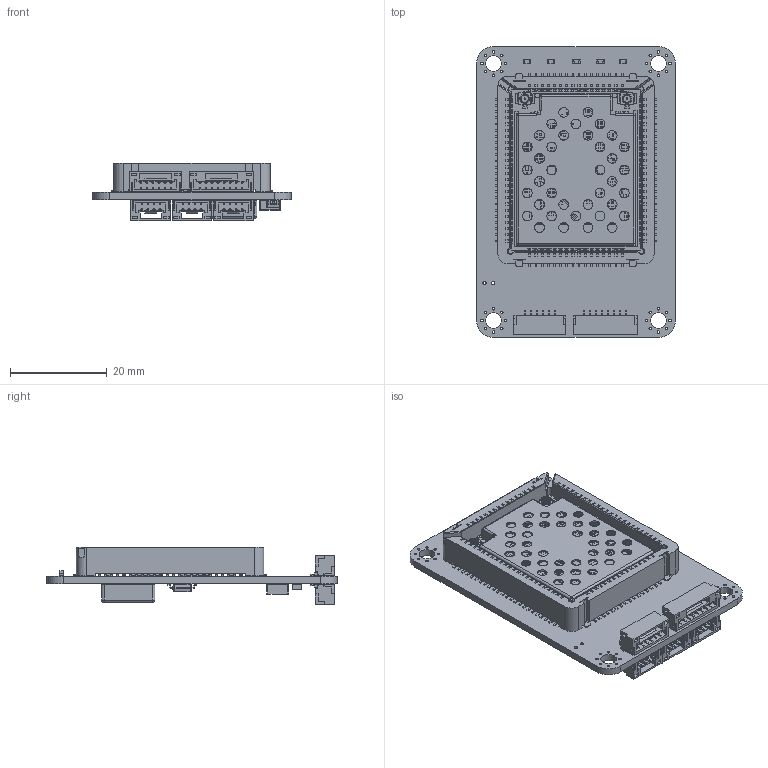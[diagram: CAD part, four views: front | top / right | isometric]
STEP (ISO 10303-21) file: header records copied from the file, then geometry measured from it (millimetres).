
FILE_DESCRIPTION(/* description */ ('KiCad electronic assembly'),/* implementation_level */ '2;1');
FILE_NAME(/* name */ 'gamma-public.step',/* time_stamp */ '2026-06-17T15:41:58+03:00',/* author */ (''),/* organization */ (''),/* preprocessor_version */ 'ST-DEVELOPER v20.1',/* originating_system */ 'Autodesk Translation Framework v15.8.0.0',/* authorisation */ '');
FILE_SCHEMA (('AUTOMOTIVE_DESIGN { 1 0 10303 214 3 1 1 }'));
Products named in the file (5287): pmddl2x50-carrier-public 1; JST_GH_SM06B-GHS-TB_1x06-1MP_P1.25mm_Horizontal; MHS106001; pmddl2x50; pDDL_OEM; pDDL_OEM001; pDDL_OEM002; pDDL_OEM003; pDDL_OEM004; pDDL_OEM005; pDDL_OEM006; pDDL_OEM007; pDDL_OEM008; pDDL_OEM009; pDDL_OEM010; pDDL_OEM011; pDDL_OEM012; pDDL_OEM013; pDDL_OEM014; pDDL_OEM015; pDDL_OEM016; pDDL_OEM017; pDDL_OEM018; pDDL_OEM019; pDDL_OEM020; pDDL_OEM021; pDDL_OEM022; pDDL_OEM023; pDDL_OEM024; pDDL_OEM025; pDDL_OEM026; pDDL_OEM027; pDDL_OEM028; pDDL_OEM029; pDDL_OEM030; pDDL_OEM031; pDDL_OEM032; pDDL_OEM033; pDDL_OEM034; pDDL_OEM035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
Assembly tree (5306 placements, depth 3):
  pmddl2x50-carrier-public 1
    LED_0603_1608Metric  x5
    JST_GH_SM06B-GHS-TB_1x06-1MP_P1.25mm_Horizontal
    MHS106001
    pmddl2x50
      pDDL_OEM
      pDDL_OEM001
      pDDL_OEM002
      pDDL_OEM003
      pDDL_OEM004
      pDDL_OEM005
      pDDL_OEM006
      pDDL_OEM007
      pDDL_OEM008
      pDDL_OEM009
      pDDL_OEM010
      pDDL_OEM011
      pDDL_OEM012
      pDDL_OEM013
      pDDL_OEM014
      pDDL_OEM015
      pDDL_OEM016
      pDDL_OEM017
      pDDL_OEM018
      pDDL_OEM019
      pDDL_OEM020
      pDDL_OEM021
      pDDL_OEM022
      pDDL_OEM023
      pDDL_OEM024
      pDDL_OEM025
      pDDL_OEM026
      pDDL_OEM027
      pDDL_OEM028
      pDDL_OEM029
      pDDL_OEM030
      pDDL_OEM031
      pDDL_OEM032
      pDDL_OEM033
      pDDL_OEM034
      pDDL_OEM035
      pDDL_OEM036
      pDDL_OEM037
      pDDL_OEM038
      pDDL_OEM039
      pDDL_OEM040
      pDDL_OEM041
      pDDL_OEM042
      pDDL_OEM043
      pDDL_OEM044
      pDDL_OEM045
      pDDL_OEM046
      pDDL_OEM047
      pDDL_OEM048
      pDDL_OEM049
      pDDL_OEM050
      pDDL_OEM051
      pDDL_OEM052
      pDDL_OEM053
      pDDL_OEM054
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Bounding box: 41 x 60 x 11.82 mm (x, y, z)
Volume: 7378 mm3; surface area: 18924.1 mm2
Topology: 251 solids, 5519 shells, 11360 faces, 43114 edges, 37402 vertices
Faces by surface type: plane 9960, cylinder 1324, torus 56, bspline 8, sphere 8, cone 4
Full cylindrical faces by diameter (mm): 0.5 x32, 0.7 x2, 1.5 x2, 1.7 x2, 3.2 x4
Entity records: 599806 total; most frequent: CARTESIAN_POINT 98454, DIRECTION 85528, ORIENTED_EDGE 54752, EDGE_CURVE 40500, LINE 37112, VECTOR 37112, VERTEX_POINT 35682, AXIS2_PLACEMENT_3D 24208
